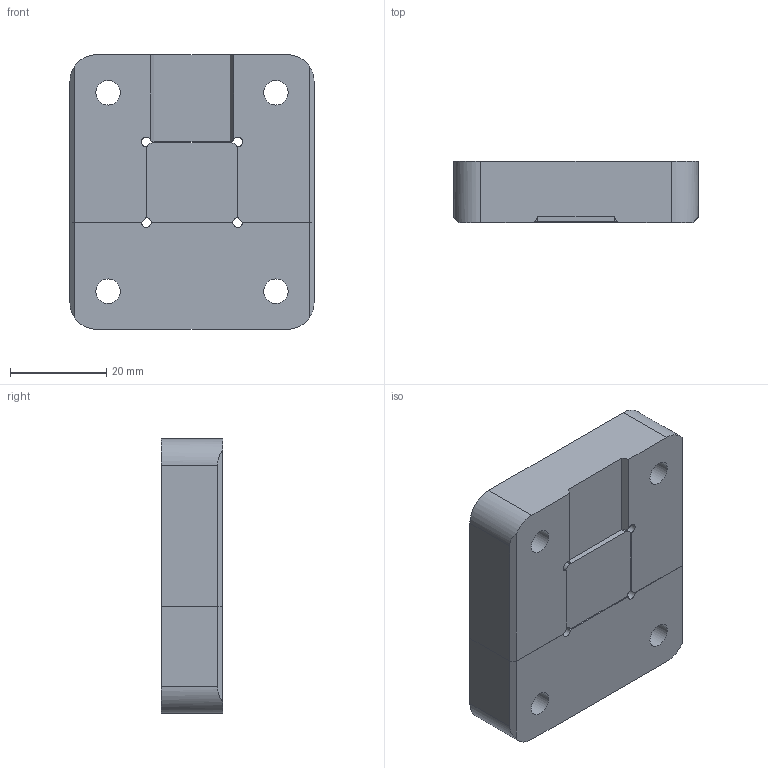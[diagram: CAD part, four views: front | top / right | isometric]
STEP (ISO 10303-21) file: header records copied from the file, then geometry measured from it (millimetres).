
FILE_DESCRIPTION(/* description */ ('STEP AP214'),/* implementation_level */ '2;1');
FILE_NAME(/* name */ 'BGS2000',/* time_stamp */ '2024-12-19T08:05:42+01:00',/* author */ ('License CC BY-ND 4.0'),/* organization */ ('CADENAS'),/* preprocessor_version */ 'ST-DEVELOPER v19.3',/* originating_system */ 'PARTsolutions',/* authorisation */ ' ');
FILE_SCHEMA (('AUTOMOTIVE_DESIGN {1 0 10303 214 3 1 1}'));
Length unit declared in the file: millimetre
Products named in the file (3): BGS2000; BGS2000M; BGS2000F
Assembly tree (2 placements, depth 2):
  BGS2000
    BGS2000M
    BGS2000F
Bounding box: 50.8 x 12.7 x 57.15 mm (x, y, z)
Volume: 33768.1 mm3; surface area: 11437.1 mm2
Topology: 2 solids, 2 shells, 54 faces, 138 edges, 92 vertices
Faces by surface type: plane 34, cylinder 20
Full cylindrical faces by diameter (mm): 5.105 x4, 9.525 x4
Entity records: 1702 total; most frequent: DIRECTION 292, CARTESIAN_POINT 279, ORIENTED_EDGE 260, EDGE_CURVE 130, AXIS2_PLACEMENT_3D 105, VERTEX_POINT 92, LINE 82, VECTOR 82
